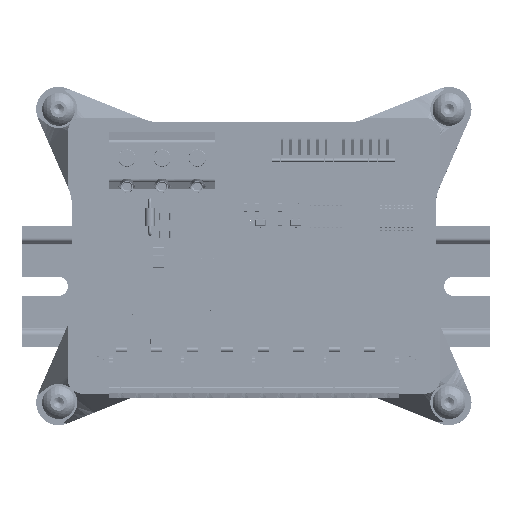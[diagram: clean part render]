
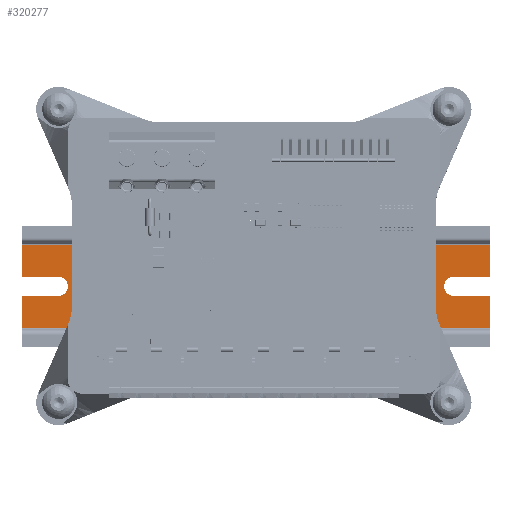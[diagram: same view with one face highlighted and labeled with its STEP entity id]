
A CAD part, top view. The second image highlights one B-rep face of the part: STEP entity #320277.
In plain terms, the highlighted planar face has unit normal (0, 0, 1) as drawn and (0, 1, 0) by its records, which use the part's own axes.
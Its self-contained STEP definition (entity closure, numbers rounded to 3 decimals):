
#3438 = ORIENTED_EDGE ( 'NONE', *, *, #60969, .T. ) ;
#8266 = DIRECTION ( 'NONE',  ( 0., 0., -1. ) ) ;
#10588 = EDGE_CURVE ( 'NONE', #215053, #179040, #144241, .T. ) ;
#10863 = LINE ( 'NONE', #288414, #98965 ) ;
#13653 = VERTEX_POINT ( 'NONE', #33009 ) ;
#21488 = CARTESIAN_POINT ( 'NONE',  ( -67.5, 1., -12. ) ) ;
#23148 = DIRECTION ( 'NONE',  ( 0., 0., 1. ) ) ;
#23354 = CARTESIAN_POINT ( 'NONE',  ( -67.5, 1., 12. ) ) ;
#24396 = ORIENTED_EDGE ( 'NONE', *, *, #323196, .T. ) ;
#27438 = VECTOR ( 'NONE', #100618, 1000. ) ;
#33009 = CARTESIAN_POINT ( 'NONE',  ( 67.5, 1., -2.75 ) ) ;
#41006 = CARTESIAN_POINT ( 'NONE',  ( 57., 1., -2.75 ) ) ;
#42817 = DIRECTION ( 'NONE',  ( 0., -1., 0. ) ) ;
#47601 = VERTEX_POINT ( 'NONE', #23354 ) ;
#48355 = EDGE_CURVE ( 'NONE', #185823, #49495, #78768, .T. ) ;
#49495 = VERTEX_POINT ( 'NONE', #193349 ) ;
#53356 = VERTEX_POINT ( 'NONE', #314838 ) ;
#54271 = ORIENTED_EDGE ( 'NONE', *, *, #10588, .T. ) ;
#55011 = FACE_OUTER_BOUND ( 'NONE', #147110, .T. ) ;
#60969 = EDGE_CURVE ( 'NONE', #304688, #47601, #280286, .T. ) ;
#71032 = VERTEX_POINT ( 'NONE', #277183 ) ;
#71896 = DIRECTION ( 'NONE',  ( -1., 0., 0. ) ) ;
#78768 = LINE ( 'NONE', #228577, #89570 ) ;
#79087 = VERTEX_POINT ( 'NONE', #188023 ) ;
#80177 = DIRECTION ( 'NONE',  ( -1., 0., 0. ) ) ;
#84176 = DIRECTION ( 'NONE',  ( 1., 0., 0. ) ) ;
#87192 = CARTESIAN_POINT ( 'NONE',  ( -67.5, 1., 2.75 ) ) ;
#87403 = DIRECTION ( 'NONE',  ( 0., 0., 1. ) ) ;
#89323 = ORIENTED_EDGE ( 'NONE', *, *, #134158, .T. ) ;
#89570 = VECTOR ( 'NONE', #331030, 1000. ) ;
#98965 = VECTOR ( 'NONE', #234700, 1000. ) ;
#100328 = LINE ( 'NONE', #105270, #103589 ) ;
#100330 = DIRECTION ( 'NONE',  ( 1., 0., 0. ) ) ;
#100618 = DIRECTION ( 'NONE',  ( 1., 0., 0. ) ) ;
#100858 = VERTEX_POINT ( 'NONE', #41006 ) ;
#101911 = CARTESIAN_POINT ( 'NONE',  ( -67.5, 1., -12. ) ) ;
#103589 = VECTOR ( 'NONE', #80177, 1000. ) ;
#105270 = CARTESIAN_POINT ( 'NONE',  ( -67.5, 1., 2.75 ) ) ;
#117439 = AXIS2_PLACEMENT_3D ( 'NONE', #265107, #132244, #290364 ) ;
#117555 = EDGE_CURVE ( 'NONE', #13653, #215053, #213499, .T. ) ;
#125189 = VECTOR ( 'NONE', #84176, 1000. ) ;
#132244 = DIRECTION ( 'NONE',  ( 0., 1., 0. ) ) ;
#134146 = EDGE_CURVE ( 'NONE', #47601, #185823, #268949, .T. ) ;
#134158 = EDGE_CURVE ( 'NONE', #53356, #100858, #147383, .T. ) ;
#135098 = VECTOR ( 'NONE', #190487, 1000. ) ;
#138462 = ORIENTED_EDGE ( 'NONE', *, *, #213287, .T. ) ;
#140417 = CIRCLE ( 'NONE', #269350, 2.75 ) ;
#141538 = LINE ( 'NONE', #264475, #135098 ) ;
#141689 = VECTOR ( 'NONE', #71896, 1000. ) ;
#144241 = LINE ( 'NONE', #21488, #141689 ) ;
#147110 = EDGE_LOOP ( 'NONE', ( #54271, #197630, #318988, #24396, #201660, #3438, #208802, #286174, #138462, #89323, #300586, #284899 ) ) ;
#147383 = CIRCLE ( 'NONE', #270999, 2.75 ) ;
#163114 = DIRECTION ( 'NONE',  ( 0., -1., 0. ) ) ;
#173107 = LINE ( 'NONE', #230240, #27438 ) ;
#179040 = VERTEX_POINT ( 'NONE', #283307 ) ;
#181199 = VECTOR ( 'NONE', #8266, 1000. ) ;
#185823 = VERTEX_POINT ( 'NONE', #253069 ) ;
#188023 = CARTESIAN_POINT ( 'NONE',  ( -67.5, 1., -2.75 ) ) ;
#188407 = CARTESIAN_POINT ( 'NONE',  ( -67.5, 1., 12. ) ) ;
#189623 = CARTESIAN_POINT ( 'NONE',  ( -57., 1., 2.75 ) ) ;
#190487 = DIRECTION ( 'NONE',  ( 0., 0., 1. ) ) ;
#193349 = CARTESIAN_POINT ( 'NONE',  ( 67.5, 1., 2.75 ) ) ;
#197630 = ORIENTED_EDGE ( 'NONE', *, *, #260704, .T. ) ;
#201660 = ORIENTED_EDGE ( 'NONE', *, *, #281347, .T. ) ;
#204999 = VECTOR ( 'NONE', #100330, 1000. ) ;
#208802 = ORIENTED_EDGE ( 'NONE', *, *, #134146, .T. ) ;
#213287 = EDGE_CURVE ( 'NONE', #49495, #53356, #10863, .T. ) ;
#213499 = LINE ( 'NONE', #316100, #181199 ) ;
#215053 = VERTEX_POINT ( 'NONE', #328617 ) ;
#219646 = EDGE_CURVE ( 'NONE', #79087, #71032, #173107, .T. ) ;
#223350 = CARTESIAN_POINT ( 'NONE',  ( -67.5, 1., -2.75 ) ) ;
#228577 = CARTESIAN_POINT ( 'NONE',  ( 67.5, 1., -12. ) ) ;
#230240 = CARTESIAN_POINT ( 'NONE',  ( -67.5, 1., -2.75 ) ) ;
#234700 = DIRECTION ( 'NONE',  ( -1., 0., 0. ) ) ;
#241548 = PLANE ( 'NONE',  #117439 ) ;
#253069 = CARTESIAN_POINT ( 'NONE',  ( 67.5, 1., 12. ) ) ;
#260704 = EDGE_CURVE ( 'NONE', #179040, #79087, #141538, .T. ) ;
#262401 = CARTESIAN_POINT ( 'NONE',  ( 57., 1., 0. ) ) ;
#264475 = CARTESIAN_POINT ( 'NONE',  ( -67.5, 1., -12. ) ) ;
#265107 = CARTESIAN_POINT ( 'NONE',  ( -67.5, 1., -12. ) ) ;
#268464 = EDGE_CURVE ( 'NONE', #100858, #13653, #275393, .T. ) ;
#268949 = LINE ( 'NONE', #188407, #125189 ) ;
#269350 = AXIS2_PLACEMENT_3D ( 'NONE', #300092, #42817, #301743 ) ;
#270999 = AXIS2_PLACEMENT_3D ( 'NONE', #262401, #163114, #87403 ) ;
#275393 = LINE ( 'NONE', #223350, #204999 ) ;
#277183 = CARTESIAN_POINT ( 'NONE',  ( -57., 1., -2.75 ) ) ;
#280286 = LINE ( 'NONE', #101911, #296949 ) ;
#281347 = EDGE_CURVE ( 'NONE', #313478, #304688, #100328, .T. ) ;
#283307 = CARTESIAN_POINT ( 'NONE',  ( -67.5, 1., -12. ) ) ;
#284899 = ORIENTED_EDGE ( 'NONE', *, *, #117555, .T. ) ;
#286174 = ORIENTED_EDGE ( 'NONE', *, *, #48355, .T. ) ;
#288414 = CARTESIAN_POINT ( 'NONE',  ( -67.5, 1., 2.75 ) ) ;
#290364 = DIRECTION ( 'NONE',  ( 0., 0., 1. ) ) ;
#296949 = VECTOR ( 'NONE', #23148, 1000. ) ;
#300092 = CARTESIAN_POINT ( 'NONE',  ( -57., 1., 0. ) ) ;
#300586 = ORIENTED_EDGE ( 'NONE', *, *, #268464, .T. ) ;
#301743 = DIRECTION ( 'NONE',  ( 0., 0., 1. ) ) ;
#304688 = VERTEX_POINT ( 'NONE', #87192 ) ;
#313478 = VERTEX_POINT ( 'NONE', #189623 ) ;
#314838 = CARTESIAN_POINT ( 'NONE',  ( 57., 1., 2.75 ) ) ;
#316100 = CARTESIAN_POINT ( 'NONE',  ( 67.5, 1., -12. ) ) ;
#318988 = ORIENTED_EDGE ( 'NONE', *, *, #219646, .T. ) ;
#320277 = ADVANCED_FACE ( 'NONE', ( #55011 ), #241548, .T. ) ;
#323196 = EDGE_CURVE ( 'NONE', #71032, #313478, #140417, .T. ) ;
#328617 = CARTESIAN_POINT ( 'NONE',  ( 67.5, 1., -12. ) ) ;
#331030 = DIRECTION ( 'NONE',  ( 0., 0., -1. ) ) ;
